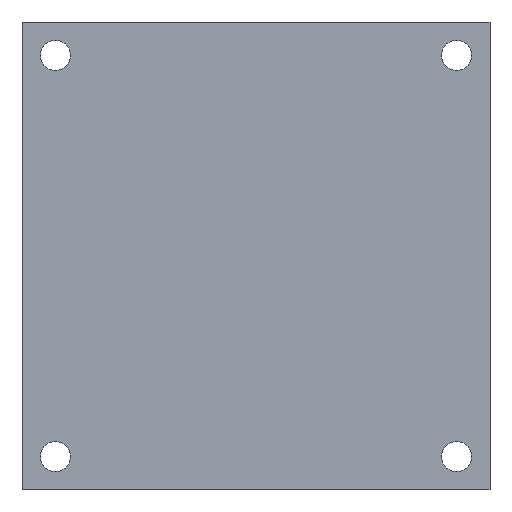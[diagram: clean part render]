
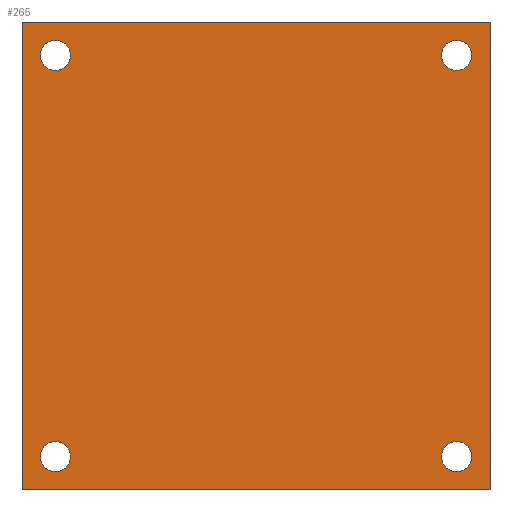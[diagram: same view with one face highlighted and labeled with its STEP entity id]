
A CAD part, front view. The second image highlights one B-rep face of the part: STEP entity #265.
In plain terms, the highlighted planar face has unit normal (0, -1, 0).
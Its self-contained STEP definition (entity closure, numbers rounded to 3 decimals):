
#3 = AXIS2_PLACEMENT_3D ( 'NONE', #381, #1262, #495 ) ;
#25 = DIRECTION ( 'NONE',  ( 0., 1., 0. ) ) ;
#43 = ORIENTED_EDGE ( 'NONE', *, *, #1389, .F. ) ;
#82 = DIRECTION ( 'NONE',  ( 0., 1., 0. ) ) ;
#84 = CIRCLE ( 'NONE', #3, 2.25 ) ;
#85 = EDGE_CURVE ( 'NONE', #1366, #209, #715, .T. ) ;
#90 = EDGE_LOOP ( 'NONE', ( #1419, #1129 ) ) ;
#96 = CARTESIAN_POINT ( 'NONE',  ( -30., 0., -27.75 ) ) ;
#97 = EDGE_CURVE ( 'NONE', #1428, #551, #886, .T. ) ;
#102 = VERTEX_POINT ( 'NONE', #248 ) ;
#107 = LINE ( 'NONE', #116, #1625 ) ;
#115 = AXIS2_PLACEMENT_3D ( 'NONE', #614, #1677, #504 ) ;
#116 = CARTESIAN_POINT ( 'NONE',  ( -35., 0., 35. ) ) ;
#138 = AXIS2_PLACEMENT_3D ( 'NONE', #1652, #213, #1213 ) ;
#140 = FACE_OUTER_BOUND ( 'NONE', #546, .T. ) ;
#148 = EDGE_CURVE ( 'NONE', #484, #1597, #1074, .T. ) ;
#167 = VECTOR ( 'NONE', #466, 1000. ) ;
#173 = EDGE_CURVE ( 'NONE', #1597, #484, #1049, .T. ) ;
#179 = EDGE_CURVE ( 'NONE', #209, #1508, #107, .T. ) ;
#206 = EDGE_CURVE ( 'NONE', #102, #1524, #84, .T. ) ;
#209 = VERTEX_POINT ( 'NONE', #1022 ) ;
#213 = DIRECTION ( 'NONE',  ( 0., 1., 0. ) ) ;
#218 = EDGE_CURVE ( 'NONE', #551, #1428, #1241, .T. ) ;
#219 = ORIENTED_EDGE ( 'NONE', *, *, #206, .T. ) ;
#233 = DIRECTION ( 'NONE',  ( -1., 0., 0. ) ) ;
#242 = DIRECTION ( 'NONE',  ( 0., 0., 1. ) ) ;
#248 = CARTESIAN_POINT ( 'NONE',  ( 30., 0., 32.25 ) ) ;
#259 = EDGE_CURVE ( 'NONE', #1524, #102, #1101, .T. ) ;
#265 = ADVANCED_FACE ( 'NONE', ( #1315, #942, #773, #554, #140 ), #805, .F. ) ;
#287 = CARTESIAN_POINT ( 'NONE',  ( -35., 0., -35. ) ) ;
#381 = CARTESIAN_POINT ( 'NONE',  ( 30., 0., 30. ) ) ;
#389 = DIRECTION ( 'NONE',  ( 0., 0., 1. ) ) ;
#425 = CARTESIAN_POINT ( 'NONE',  ( -30., 0., -32.25 ) ) ;
#431 = DIRECTION ( 'NONE',  ( 0., 1., 0. ) ) ;
#441 = CARTESIAN_POINT ( 'NONE',  ( 35., 0., -35. ) ) ;
#466 = DIRECTION ( 'NONE',  ( 0., 0., 1. ) ) ;
#484 = VERTEX_POINT ( 'NONE', #730 ) ;
#493 = CIRCLE ( 'NONE', #1265, 2.25 ) ;
#495 = DIRECTION ( 'NONE',  ( 0., 0., 1. ) ) ;
#504 = DIRECTION ( 'NONE',  ( 0., 0., 1. ) ) ;
#516 = VECTOR ( 'NONE', #233, 1000. ) ;
#518 = EDGE_CURVE ( 'NONE', #645, #1366, #875, .T. ) ;
#533 = DIRECTION ( 'NONE',  ( 0., 0., -1. ) ) ;
#546 = EDGE_LOOP ( 'NONE', ( #43, #691, #1139, #1193 ) ) ;
#551 = VERTEX_POINT ( 'NONE', #96 ) ;
#554 = FACE_BOUND ( 'NONE', #1680, .T. ) ;
#557 = ORIENTED_EDGE ( 'NONE', *, *, #804, .T. ) ;
#614 = CARTESIAN_POINT ( 'NONE',  ( 30., 0., -30. ) ) ;
#622 = CARTESIAN_POINT ( 'NONE',  ( 30., 0., -30. ) ) ;
#641 = CARTESIAN_POINT ( 'NONE',  ( -30., 0., 27.75 ) ) ;
#645 = VERTEX_POINT ( 'NONE', #441 ) ;
#663 = CARTESIAN_POINT ( 'NONE',  ( 0., 0., 0. ) ) ;
#674 = DIRECTION ( 'NONE',  ( 0., 1., 0. ) ) ;
#677 = VECTOR ( 'NONE', #533, 1000. ) ;
#689 = CARTESIAN_POINT ( 'NONE',  ( 35., 0., 35. ) ) ;
#691 = ORIENTED_EDGE ( 'NONE', *, *, #179, .F. ) ;
#704 = AXIS2_PLACEMENT_3D ( 'NONE', #897, #82, #891 ) ;
#715 = LINE ( 'NONE', #1244, #167 ) ;
#717 = DIRECTION ( 'NONE',  ( 0., 0., 1. ) ) ;
#730 = CARTESIAN_POINT ( 'NONE',  ( 30., 0., -32.25 ) ) ;
#740 = CARTESIAN_POINT ( 'NONE',  ( -30., 0., -30. ) ) ;
#773 = FACE_BOUND ( 'NONE', #1610, .T. ) ;
#804 = EDGE_CURVE ( 'NONE', #807, #876, #1618, .T. ) ;
#805 = PLANE ( 'NONE',  #1327 ) ;
#807 = VERTEX_POINT ( 'NONE', #1427 ) ;
#861 = ORIENTED_EDGE ( 'NONE', *, *, #173, .T. ) ;
#875 = LINE ( 'NONE', #997, #516 ) ;
#876 = VERTEX_POINT ( 'NONE', #641 ) ;
#886 = CIRCLE ( 'NONE', #138, 2.25 ) ;
#891 = DIRECTION ( 'NONE',  ( 0., 0., 1. ) ) ;
#897 = CARTESIAN_POINT ( 'NONE',  ( -30., 0., 30. ) ) ;
#913 = AXIS2_PLACEMENT_3D ( 'NONE', #740, #1661, #1274 ) ;
#942 = FACE_BOUND ( 'NONE', #960, .T. ) ;
#946 = LINE ( 'NONE', #1712, #677 ) ;
#960 = EDGE_LOOP ( 'NONE', ( #861, #1142 ) ) ;
#985 = ORIENTED_EDGE ( 'NONE', *, *, #259, .T. ) ;
#997 = CARTESIAN_POINT ( 'NONE',  ( -35., 0., -35. ) ) ;
#1022 = CARTESIAN_POINT ( 'NONE',  ( -35., 0., 35. ) ) ;
#1024 = ORIENTED_EDGE ( 'NONE', *, *, #1546, .T. ) ;
#1049 = CIRCLE ( 'NONE', #1658, 2.25 ) ;
#1074 = CIRCLE ( 'NONE', #115, 2.25 ) ;
#1101 = CIRCLE ( 'NONE', #1156, 2.25 ) ;
#1129 = ORIENTED_EDGE ( 'NONE', *, *, #97, .T. ) ;
#1139 = ORIENTED_EDGE ( 'NONE', *, *, #85, .F. ) ;
#1142 = ORIENTED_EDGE ( 'NONE', *, *, #148, .T. ) ;
#1156 = AXIS2_PLACEMENT_3D ( 'NONE', #1205, #25, #389 ) ;
#1171 = DIRECTION ( 'NONE',  ( 0., 0., 1. ) ) ;
#1193 = ORIENTED_EDGE ( 'NONE', *, *, #518, .F. ) ;
#1205 = CARTESIAN_POINT ( 'NONE',  ( 30., 0., 30. ) ) ;
#1213 = DIRECTION ( 'NONE',  ( 0., 0., 1. ) ) ;
#1241 = CIRCLE ( 'NONE', #913, 2.25 ) ;
#1244 = CARTESIAN_POINT ( 'NONE',  ( -35., 0., -35. ) ) ;
#1262 = DIRECTION ( 'NONE',  ( 0., 1., 0. ) ) ;
#1265 = AXIS2_PLACEMENT_3D ( 'NONE', #1530, #431, #717 ) ;
#1274 = DIRECTION ( 'NONE',  ( 0., 0., 1. ) ) ;
#1283 = DIRECTION ( 'NONE',  ( 1., 0., 0. ) ) ;
#1292 = DIRECTION ( 'NONE',  ( 0., 1., 0. ) ) ;
#1315 = FACE_BOUND ( 'NONE', #90, .T. ) ;
#1327 = AXIS2_PLACEMENT_3D ( 'NONE', #663, #674, #1171 ) ;
#1366 = VERTEX_POINT ( 'NONE', #287 ) ;
#1367 = CARTESIAN_POINT ( 'NONE',  ( 30., 0., 27.75 ) ) ;
#1389 = EDGE_CURVE ( 'NONE', #1508, #645, #946, .T. ) ;
#1419 = ORIENTED_EDGE ( 'NONE', *, *, #218, .T. ) ;
#1426 = CARTESIAN_POINT ( 'NONE',  ( 30., 0., -27.75 ) ) ;
#1427 = CARTESIAN_POINT ( 'NONE',  ( -30., 0., 32.25 ) ) ;
#1428 = VERTEX_POINT ( 'NONE', #425 ) ;
#1508 = VERTEX_POINT ( 'NONE', #689 ) ;
#1524 = VERTEX_POINT ( 'NONE', #1367 ) ;
#1530 = CARTESIAN_POINT ( 'NONE',  ( -30., 0., 30. ) ) ;
#1546 = EDGE_CURVE ( 'NONE', #876, #807, #493, .T. ) ;
#1597 = VERTEX_POINT ( 'NONE', #1426 ) ;
#1610 = EDGE_LOOP ( 'NONE', ( #219, #985 ) ) ;
#1618 = CIRCLE ( 'NONE', #704, 2.25 ) ;
#1625 = VECTOR ( 'NONE', #1283, 1000. ) ;
#1652 = CARTESIAN_POINT ( 'NONE',  ( -30., 0., -30. ) ) ;
#1658 = AXIS2_PLACEMENT_3D ( 'NONE', #622, #1292, #242 ) ;
#1661 = DIRECTION ( 'NONE',  ( 0., 1., 0. ) ) ;
#1677 = DIRECTION ( 'NONE',  ( 0., 1., 0. ) ) ;
#1680 = EDGE_LOOP ( 'NONE', ( #557, #1024 ) ) ;
#1712 = CARTESIAN_POINT ( 'NONE',  ( 35., 0., -35. ) ) ;
